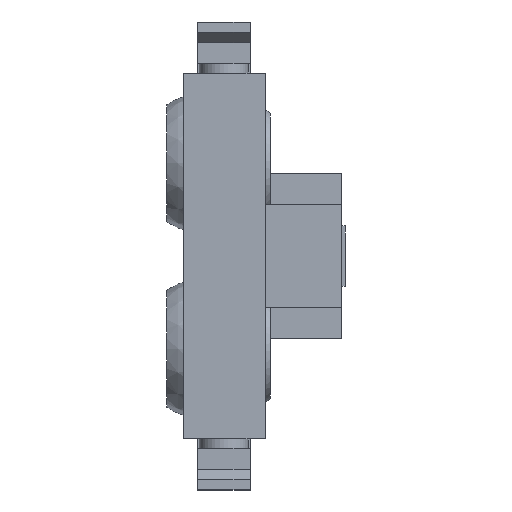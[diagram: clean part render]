
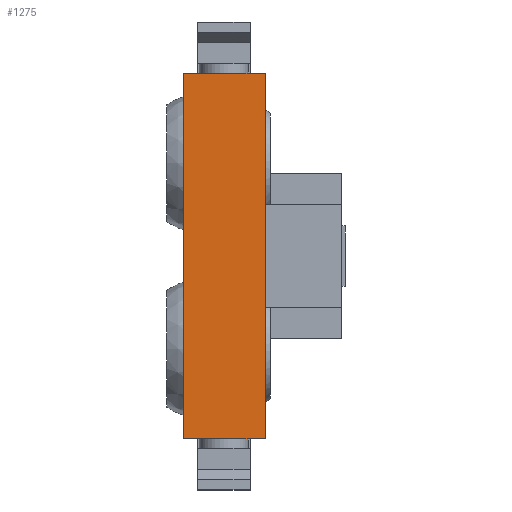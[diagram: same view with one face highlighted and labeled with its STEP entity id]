
A CAD part, front view. The second image highlights one B-rep face of the part: STEP entity #1275.
In plain terms, the highlighted planar face has unit normal (0, -1, 0).
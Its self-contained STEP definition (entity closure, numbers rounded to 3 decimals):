
#45=PLANE('',#1426);
#109=FACE_OUTER_BOUND('',#181,.T.);
#181=EDGE_LOOP('',(#907,#908,#909,#910));
#259=LINE('',#1882,#415);
#260=LINE('',#1884,#416);
#261=LINE('',#1886,#417);
#262=LINE('',#1887,#418);
#415=VECTOR('',#1537,10.);
#416=VECTOR('',#1538,10.);
#417=VECTOR('',#1539,10.);
#418=VECTOR('',#1540,10.);
#597=VERTEX_POINT('',#1880);
#598=VERTEX_POINT('',#1881);
#599=VERTEX_POINT('',#1883);
#600=VERTEX_POINT('',#1885);
#719=EDGE_CURVE('',#597,#598,#259,.T.);
#720=EDGE_CURVE('',#598,#599,#260,.T.);
#721=EDGE_CURVE('',#599,#600,#261,.T.);
#722=EDGE_CURVE('',#600,#597,#262,.T.);
#907=ORIENTED_EDGE('',*,*,#719,.T.);
#908=ORIENTED_EDGE('',*,*,#720,.T.);
#909=ORIENTED_EDGE('',*,*,#721,.T.);
#910=ORIENTED_EDGE('',*,*,#722,.T.);
#1275=ADVANCED_FACE('',(#109),#45,.T.);
#1426=AXIS2_PLACEMENT_3D('',#1879,#1535,#1536);
#1535=DIRECTION('center_axis',(0.,-1.,0.));
#1536=DIRECTION('ref_axis',(0.,0.,-1.));
#1537=DIRECTION('',(0.,0.,1.));
#1538=DIRECTION('',(-1.,0.,0.));
#1539=DIRECTION('',(0.,0.,-1.));
#1540=DIRECTION('',(1.,0.,0.));
#1879=CARTESIAN_POINT('Origin',(0.,-95.,188.));
#1880=CARTESIAN_POINT('',(38.,-95.,-190.));
#1881=CARTESIAN_POINT('',(38.,-95.,190.));
#1882=CARTESIAN_POINT('',(38.,-95.,188.));
#1883=CARTESIAN_POINT('',(-46.3,-95.,190.));
#1884=CARTESIAN_POINT('',(0.,-95.,190.));
#1885=CARTESIAN_POINT('',(-46.3,-95.,-190.));
#1886=CARTESIAN_POINT('',(-46.3,-95.,-188.));
#1887=CARTESIAN_POINT('',(0.,-95.,-190.));
